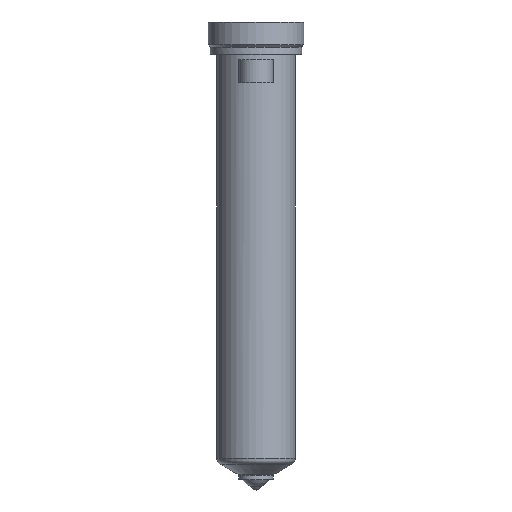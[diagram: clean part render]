
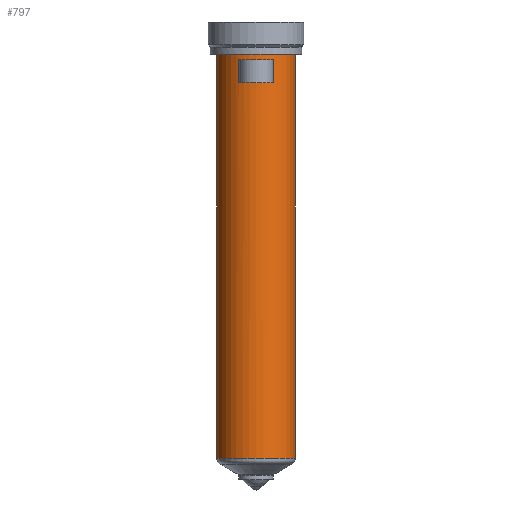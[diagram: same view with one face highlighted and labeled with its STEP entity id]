
A CAD part, top view. The second image highlights one B-rep face of the part: STEP entity #797.
In plain terms, the highlighted cylindrical face has radius 18 mm (diameter 36 mm), a partial arc.
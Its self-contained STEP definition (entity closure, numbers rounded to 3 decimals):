
#187=DIRECTION('',(0.,-1.,0.));
#188=VECTOR('',#187,185.506);
#189=CARTESIAN_POINT('',(18.,0.,0.));
#190=LINE('',#189,#188);
#191=CARTESIAN_POINT('',(0.,-185.506,0.));
#192=DIRECTION('',(0.,1.,0.));
#193=DIRECTION('',(-1.,0.,0.));
#194=AXIS2_PLACEMENT_3D('',#191,#192,#193);
#196=DIRECTION('',(0.,1.,0.));
#197=VECTOR('',#196,185.506);
#198=CARTESIAN_POINT('',(-18.,-185.506,0.));
#199=LINE('',#198,#197);
#200=CARTESIAN_POINT('',(0.,0.,0.));
#201=DIRECTION('',(0.,1.,0.));
#202=DIRECTION('',(-1.,0.,0.));
#203=AXIS2_PLACEMENT_3D('',#200,#201,#202);
#367=DIRECTION('',(0.,-1.,0.));
#368=VECTOR('',#367,10.5);
#369=CARTESIAN_POINT('',(-8.,-2.5,16.125));
#370=LINE('',#369,#368);
#371=CARTESIAN_POINT('',(0.,-13.,0.));
#372=DIRECTION('',(0.,1.,0.));
#373=DIRECTION('',(-0.444,0.,0.896));
#374=AXIS2_PLACEMENT_3D('',#371,#372,#373);
#397=CARTESIAN_POINT('',(0.,-2.5,0.));
#398=DIRECTION('',(0.,-1.,0.));
#399=DIRECTION('',(0.444,0.,0.896));
#400=AXIS2_PLACEMENT_3D('',#397,#398,#399);
#415=DIRECTION('',(0.,-1.,0.));
#416=VECTOR('',#415,10.5);
#417=CARTESIAN_POINT('',(8.,-2.5,16.125));
#418=LINE('',#417,#416);
#476=CARTESIAN_POINT('',(-18.,0.,0.));
#477=CARTESIAN_POINT('',(18.,0.,0.));
#478=VERTEX_POINT('',#476);
#479=VERTEX_POINT('',#477);
#488=CARTESIAN_POINT('',(-8.,-2.5,16.125));
#489=VERTEX_POINT('',#488);
#490=CARTESIAN_POINT('',(8.,-2.5,16.125));
#491=VERTEX_POINT('',#490);
#524=CARTESIAN_POINT('',(18.,-185.506,0.));
#525=VERTEX_POINT('',#524);
#534=CARTESIAN_POINT('',(-18.,-185.506,0.));
#535=VERTEX_POINT('',#534);
#556=CARTESIAN_POINT('',(-8.,-13.,16.125));
#557=CARTESIAN_POINT('',(8.,-13.,16.125));
#558=VERTEX_POINT('',#556);
#559=VERTEX_POINT('',#557);
#775=CARTESIAN_POINT('',(0.,16.4,0.));
#776=DIRECTION('',(0.,-1.,0.));
#777=DIRECTION('',(-1.,0.,0.));
#778=AXIS2_PLACEMENT_3D('',#775,#776,#777);
#779=CYLINDRICAL_SURFACE('',#778,18.);
#780=ORIENTED_EDGE('',*,*,#769,.T.);
#782=ORIENTED_EDGE('',*,*,#781,.F.);
#783=ORIENTED_EDGE('',*,*,#765,.T.);
#784=ORIENTED_EDGE('',*,*,#755,.T.);
#785=EDGE_LOOP('',(#780,#782,#783,#784));
#786=FACE_OUTER_BOUND('',#785,.F.);
#788=ORIENTED_EDGE('',*,*,#787,.T.);
#790=ORIENTED_EDGE('',*,*,#789,.T.);
#792=ORIENTED_EDGE('',*,*,#791,.F.);
#794=ORIENTED_EDGE('',*,*,#793,.T.);
#795=EDGE_LOOP('',(#788,#790,#792,#794));
#796=FACE_BOUND('',#795,.F.);
#797=ADVANCED_FACE('',(#786,#796),#779,.T.);
#195=CIRCLE('',#194,18.);
#204=CIRCLE('',#203,18.);
#375=CIRCLE('',#374,18.);
#401=CIRCLE('',#400,18.);
#755=EDGE_CURVE('',#478,#479,#204,.T.);
#765=EDGE_CURVE('',#535,#478,#199,.T.);
#769=EDGE_CURVE('',#479,#525,#190,.T.);
#781=EDGE_CURVE('',#535,#525,#195,.T.);
#787=EDGE_CURVE('',#489,#558,#370,.T.);
#789=EDGE_CURVE('',#558,#559,#375,.T.);
#791=EDGE_CURVE('',#491,#559,#418,.T.);
#793=EDGE_CURVE('',#491,#489,#401,.T.);
